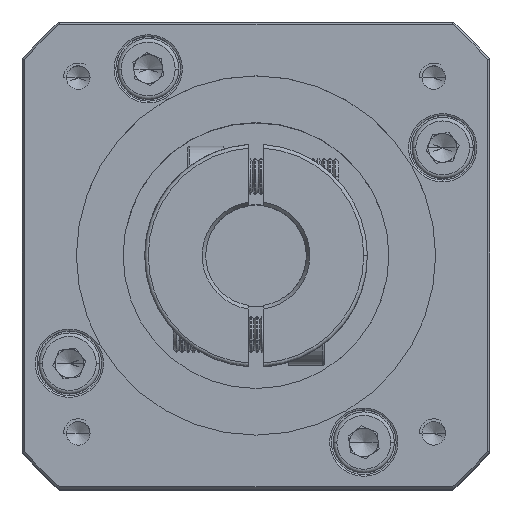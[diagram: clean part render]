
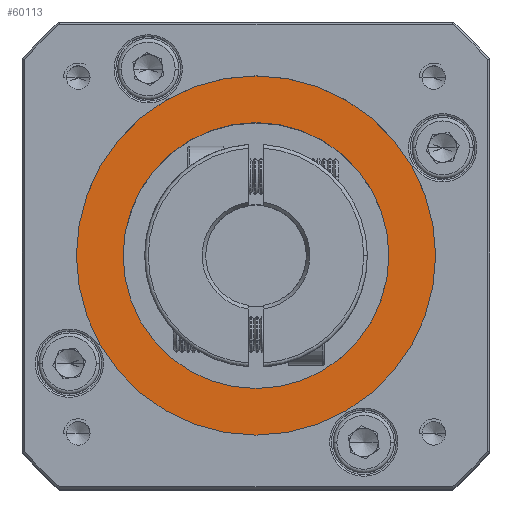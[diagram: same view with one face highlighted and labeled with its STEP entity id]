
A CAD part, top view. The second image highlights one B-rep face of the part: STEP entity #60113.
In plain terms, the highlighted planar face has unit normal (0, 0, 1).
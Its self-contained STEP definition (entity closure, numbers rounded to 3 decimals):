
#128 = CARTESIAN_POINT ( 'NONE',  ( -45.09, 29.291, 0.97 ) ) ;
#558 = DIRECTION ( 'NONE',  ( 0., 0., -1. ) ) ;
#6893 = CIRCLE ( 'NONE', #86652, 25. ) ;
#7317 = CIRCLE ( 'NONE', #53387, 25. ) ;
#7882 = DIRECTION ( 'NONE',  ( 0., 0., 1. ) ) ;
#9271 = DIRECTION ( 'NONE',  ( 1., 0., 0. ) ) ;
#15877 = CARTESIAN_POINT ( 'NONE',  ( -45.09, 29.291, 0.97 ) ) ;
#21137 = DIRECTION ( 'NONE',  ( 0., 0., 1. ) ) ;
#22314 = VERTEX_POINT ( 'NONE', #58861 ) ;
#33931 = DIRECTION ( 'NONE',  ( 1., 0., 0. ) ) ;
#35508 = AXIS2_PLACEMENT_3D ( 'NONE', #15877, #109356, #33931 ) ;
#37542 = CIRCLE ( 'NONE', #58968, 18.5 ) ;
#39696 = ORIENTED_EDGE ( 'NONE', *, *, #104666, .T. ) ;
#41717 = DIRECTION ( 'NONE',  ( 1., 0., 0. ) ) ;
#41976 = EDGE_LOOP ( 'NONE', ( #75556, #42755 ) ) ;
#42539 = ORIENTED_EDGE ( 'NONE', *, *, #111302, .T. ) ;
#42755 = ORIENTED_EDGE ( 'NONE', *, *, #56598, .T. ) ;
#45849 = AXIS2_PLACEMENT_3D ( 'NONE', #56149, #7882, #73549 ) ;
#52855 = DIRECTION ( 'NONE',  ( 1., 0., 0. ) ) ;
#53387 = AXIS2_PLACEMENT_3D ( 'NONE', #116261, #21137, #41717 ) ;
#56149 = CARTESIAN_POINT ( 'NONE',  ( -45.09, 29.291, 0.97 ) ) ;
#56255 = CARTESIAN_POINT ( 'NONE',  ( -70.09, 29.291, 0.97 ) ) ;
#56598 = EDGE_CURVE ( 'NONE', #22314, #58163, #37542, .T. ) ;
#57247 = FACE_OUTER_BOUND ( 'NONE', #96860, .T. ) ;
#58163 = VERTEX_POINT ( 'NONE', #68944 ) ;
#58861 = CARTESIAN_POINT ( 'NONE',  ( -63.59, 29.291, 0.97 ) ) ;
#58968 = AXIS2_PLACEMENT_3D ( 'NONE', #128, #558, #9271 ) ;
#59642 = CARTESIAN_POINT ( 'NONE',  ( -20.09, 29.291, 0.97 ) ) ;
#60113 = ADVANCED_FACE ( 'NONE', ( #57247, #85285 ), #64043, .T. ) ;
#64043 = PLANE ( 'NONE',  #45849 ) ;
#65480 = CIRCLE ( 'NONE', #35508, 18.5 ) ;
#68944 = CARTESIAN_POINT ( 'NONE',  ( -26.59, 29.291, 0.97 ) ) ;
#71870 = CARTESIAN_POINT ( 'NONE',  ( -45.09, 29.291, 0.97 ) ) ;
#73549 = DIRECTION ( 'NONE',  ( 1., 0., 0. ) ) ;
#75556 = ORIENTED_EDGE ( 'NONE', *, *, #106164, .T. ) ;
#85285 = FACE_BOUND ( 'NONE', #41976, .T. ) ;
#86652 = AXIS2_PLACEMENT_3D ( 'NONE', #71870, #109668, #52855 ) ;
#94899 = VERTEX_POINT ( 'NONE', #56255 ) ;
#96860 = EDGE_LOOP ( 'NONE', ( #39696, #42539 ) ) ;
#104666 = EDGE_CURVE ( 'NONE', #106012, #94899, #7317, .T. ) ;
#106012 = VERTEX_POINT ( 'NONE', #59642 ) ;
#106164 = EDGE_CURVE ( 'NONE', #58163, #22314, #65480, .T. ) ;
#109356 = DIRECTION ( 'NONE',  ( 0., 0., -1. ) ) ;
#109668 = DIRECTION ( 'NONE',  ( 0., 0., 1. ) ) ;
#111302 = EDGE_CURVE ( 'NONE', #94899, #106012, #6893, .T. ) ;
#116261 = CARTESIAN_POINT ( 'NONE',  ( -45.09, 29.291, 0.97 ) ) ;
